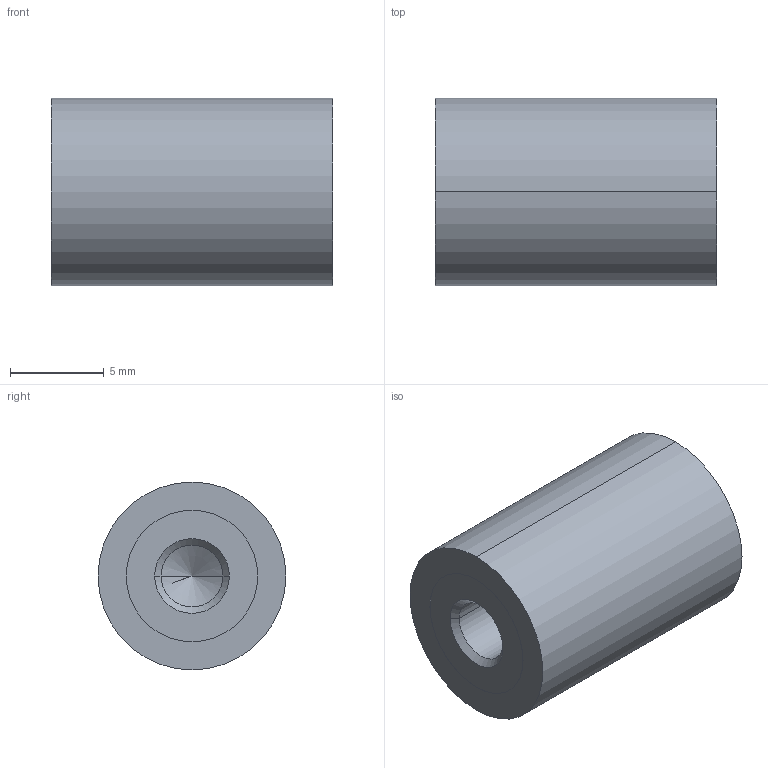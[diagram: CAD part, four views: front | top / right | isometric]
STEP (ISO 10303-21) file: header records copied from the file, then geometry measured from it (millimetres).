
FILE_DESCRIPTION (( 'STEP AP214' ), '1' );
FILE_NAME ('451-10-15-M4-EE-40.step', '2020-03-05T09:08:54', ( '' ), ( '' ), 'SwSTEP 2.0', 'SolidWorks 2019', '' );
FILE_SCHEMA (( 'AUTOMOTIVE_DESIGN' ));
Length unit declared in the file: millimetre
Products named in the file (1): 451-10-15-M4-EE-40
Bounding box: 15 x 10 x 10 mm (x, y, z)
Volume: 1102.1 mm3; surface area: 710.5 mm2
Topology: 1 solids, 1 shells, 22 faces, 46 edges, 26 vertices
Faces by surface type: cylinder 10, cone 8, plane 4
Entity records: 684 total; most frequent: DIRECTION 112, CARTESIAN_POINT 91, ORIENTED_EDGE 84, AXIS2_PLACEMENT_3D 47, EDGE_CURVE 42, EDGE_LOOP 26, VERTEX_POINT 26, CIRCLE 24
